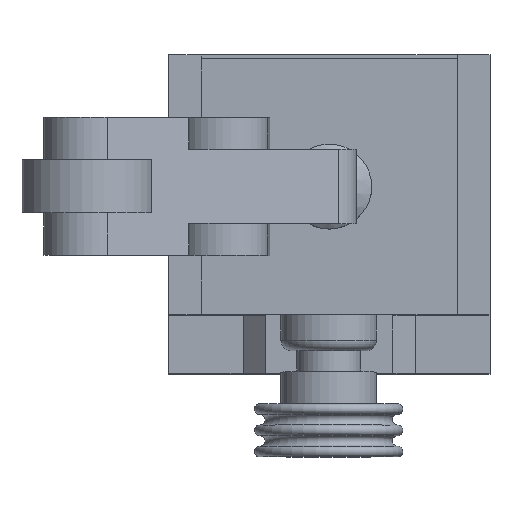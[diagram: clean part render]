
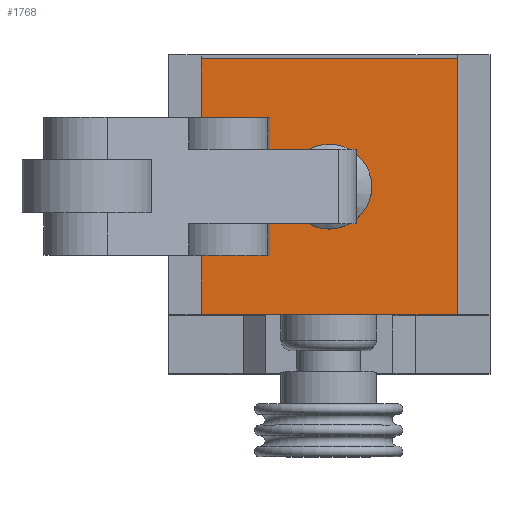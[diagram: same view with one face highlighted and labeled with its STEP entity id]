
A CAD part, top view. The second image highlights one B-rep face of the part: STEP entity #1768.
In plain terms, the highlighted planar face has unit normal (0, 0, 1).
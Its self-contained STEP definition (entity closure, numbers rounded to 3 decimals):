
#1305=CARTESIAN_POINT('',(5.605,6.05,67.));
#1306=VERTEX_POINT('',#1305);
#1307=CARTESIAN_POINT('',(14.395,6.05,67.));
#1308=VERTEX_POINT('',#1307);
#1309=CARTESIAN_POINT('',(5.605,6.05,67.));
#1310=DIRECTION('',(1.0,0.0,0.0));
#1311=VECTOR('',#1310,8.789);
#1312=LINE('',#1309,#1311);
#1313=EDGE_CURVE('',#1306,#1308,#1312,.T.);
#1357=CARTESIAN_POINT('',(14.395,-0.95,67.));
#1358=VERTEX_POINT('',#1357);
#1365=CARTESIAN_POINT('',(5.605,-0.95,67.));
#1366=VERTEX_POINT('',#1365);
#1367=CARTESIAN_POINT('',(14.395,-0.95,67.));
#1368=DIRECTION('',(-1.0,0.0,0.0));
#1369=VECTOR('',#1368,8.789);
#1370=LINE('',#1367,#1369);
#1371=EDGE_CURVE('',#1358,#1366,#1370,.T.);
#1453=CARTESIAN_POINT('',(5.605,9.05,67.));
#1454=VERTEX_POINT('',#1453);
#1461=CARTESIAN_POINT('',(5.605,6.05,67.));
#1462=DIRECTION('',(0.0,1.0,0.0));
#1463=VECTOR('',#1462,3.);
#1464=LINE('',#1461,#1463);
#1465=EDGE_CURVE('',#1306,#1454,#1464,.T.);
#1476=CARTESIAN_POINT('',(5.605,-3.95,67.));
#1477=VERTEX_POINT('',#1476);
#1478=CARTESIAN_POINT('',(5.605,-3.95,67.));
#1479=DIRECTION('',(0.0,1.0,0.0));
#1480=VECTOR('',#1479,3.);
#1481=LINE('',#1478,#1480);
#1482=EDGE_CURVE('',#1477,#1366,#1481,.T.);
#1510=CARTESIAN_POINT('',(4.0,2.55,67.));
#1511=VERTEX_POINT('',#1510);
#1512=CARTESIAN_POINT('',(0.0,2.55,67.));
#1513=DIRECTION('',(0.0,0.0,-1.0));
#1514=DIRECTION('',(-1.0,0.0,0.0));
#1515=AXIS2_PLACEMENT_3D('',#1512,#1513,#1514);
#1516=CIRCLE('',#1515,4.0);
#1517=EDGE_CURVE('',#1511,#1511,#1516,.T.);
#1567=CARTESIAN_POINT('',(12.05,9.05,67.));
#1568=VERTEX_POINT('',#1567);
#1575=CARTESIAN_POINT('',(5.605,9.05,67.));
#1576=DIRECTION('',(1.0,0.0,0.0));
#1577=VECTOR('',#1576,6.445);
#1578=LINE('',#1575,#1577);
#1579=EDGE_CURVE('',#1454,#1568,#1578,.T.);
#1634=CARTESIAN_POINT('',(14.395,6.05,67.));
#1635=DIRECTION('',(0.0,-1.0,0.0));
#1636=VECTOR('',#1635,7.);
#1637=LINE('',#1634,#1636);
#1638=EDGE_CURVE('',#1308,#1358,#1637,.T.);
#1691=CARTESIAN_POINT('',(12.05,-3.95,67.));
#1692=VERTEX_POINT('',#1691);
#1693=CARTESIAN_POINT('',(12.05,-3.95,67.));
#1694=DIRECTION('',(-1.0,0.0,0.0));
#1695=VECTOR('',#1694,6.445);
#1696=LINE('',#1693,#1695);
#1697=EDGE_CURVE('',#1692,#1477,#1696,.T.);
#1713=CARTESIAN_POINT('',(0.,2.55,67.));
#1714=DIRECTION('',(0.0,0.0,1.0));
#1715=DIRECTION('',(1.0,0.0,0.0));
#1716=AXIS2_PLACEMENT_3D('',#1713,#1714,#1715);
#1717=PLANE('',#1716);
#1718=ORIENTED_EDGE('',*,*,#1697,.T.);
#1719=ORIENTED_EDGE('',*,*,#1482,.T.);
#1720=ORIENTED_EDGE('',*,*,#1371,.F.);
#1721=ORIENTED_EDGE('',*,*,#1638,.F.);
#1722=ORIENTED_EDGE('',*,*,#1313,.F.);
#1723=ORIENTED_EDGE('',*,*,#1465,.T.);
#1724=ORIENTED_EDGE('',*,*,#1579,.T.);
#1725=CARTESIAN_POINT('',(12.05,14.6,67.));
#1726=VERTEX_POINT('',#1725);
#1727=CARTESIAN_POINT('',(12.05,14.6,67.0));
#1728=DIRECTION('',(0.0,-1.0,0.0));
#1729=VECTOR('',#1728,5.55);
#1730=LINE('',#1727,#1729);
#1731=EDGE_CURVE('',#1726,#1568,#1730,.T.);
#1732=ORIENTED_EDGE('',*,*,#1731,.F.);
#1733=CARTESIAN_POINT('',(-12.05,14.6,67.));
#1734=VERTEX_POINT('',#1733);
#1735=CARTESIAN_POINT('',(-12.05,14.6,67.0));
#1736=DIRECTION('',(1.0,0.0,0.0));
#1737=VECTOR('',#1736,24.1);
#1738=LINE('',#1735,#1737);
#1739=EDGE_CURVE('',#1734,#1726,#1738,.T.);
#1740=ORIENTED_EDGE('',*,*,#1739,.F.);
#1741=CARTESIAN_POINT('',(-12.05,-9.5,67.));
#1742=VERTEX_POINT('',#1741);
#1743=CARTESIAN_POINT('',(-12.05,-9.5,67.0));
#1744=DIRECTION('',(0.0,1.0,0.0));
#1745=VECTOR('',#1744,24.1);
#1746=LINE('',#1743,#1745);
#1747=EDGE_CURVE('',#1742,#1734,#1746,.T.);
#1748=ORIENTED_EDGE('',*,*,#1747,.F.);
#1749=CARTESIAN_POINT('',(12.05,-9.5,67.));
#1750=VERTEX_POINT('',#1749);
#1751=CARTESIAN_POINT('',(12.05,-9.5,67.0));
#1752=DIRECTION('',(-1.0,0.0,0.0));
#1753=VECTOR('',#1752,24.1);
#1754=LINE('',#1751,#1753);
#1755=EDGE_CURVE('',#1750,#1742,#1754,.T.);
#1756=ORIENTED_EDGE('',*,*,#1755,.F.);
#1757=CARTESIAN_POINT('',(12.05,-3.95,67.0));
#1758=DIRECTION('',(0.0,-1.0,0.0));
#1759=VECTOR('',#1758,5.55);
#1760=LINE('',#1757,#1759);
#1761=EDGE_CURVE('',#1692,#1750,#1760,.T.);
#1762=ORIENTED_EDGE('',*,*,#1761,.F.);
#1763=EDGE_LOOP('',(#1718,#1719,#1720,#1721,#1722,#1723,#1724,#1732,#1740,#1748,#1756,#1762));
#1764=FACE_OUTER_BOUND('',#1763,.T.);
#1765=ORIENTED_EDGE('',*,*,#1517,.T.);
#1766=EDGE_LOOP('',(#1765));
#1767=FACE_BOUND('',#1766,.T.);
#1768=ADVANCED_FACE('',(#1764,#1767),#1717,.T.);
